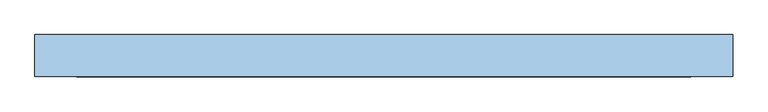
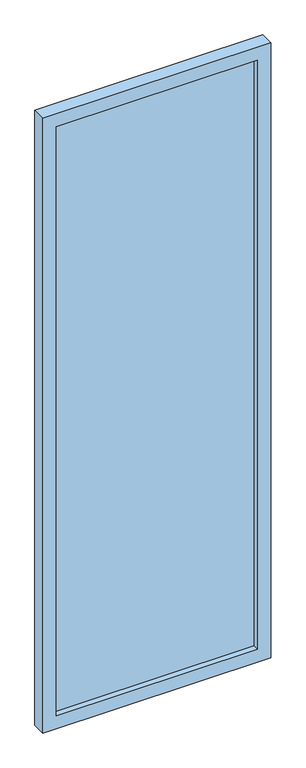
"""IFC4 building model written with IfcOpenShell, lengths in millimetres: window geometry, 固定窗-矩形- (1) : 樓梯_東面_固定窗_矩型_100 x 285cm."""

from ifc_helpers import new_model, si_unit, frame, origin, place, context, project, spatial, polyline, outline, extrude, source, transform, mapped, element, save


def window_85ef9ea3(model_context):
    return source(origin(), model_context, "Body", "SweptSolid", [
        extrude(outline(polyline([(2850.0, 500.0), (2850.0, -500.0), (0.0, -500.0), (0.0, 500.0), (2850.0, 500.0)]), holes=[polyline([(2790.0, 440.0), (60.0, 440.0), (60.0, -440.0), (2790.0, -440.0), (2790.0, 440.0)])]), frame((0.0, -60.0, 0.0), z_axis=(0.0, 1.0, 0.0), x_axis=(0.0, 0.0, 1.0)), (0.0, 0.0, 1.0), 60.0),
        extrude(outline(polyline([(-440.0, -25.0), (440.0, -25.0), (440.0, -35.0), (-440.0, -35.0), (-440.0, -25.0)])), frame((0.0, 0.0, 60.0), z_axis=(0.0, 0.0, 1.0), x_axis=(1.0, 0.0, 0.0)), (0.0, 0.0, 1.0), 2730.0),
    ])


if __name__ == "__main__":
    model = new_model("IFC4")
    model_context = context("Model", 3, world=origin())
    ifc_project = project(units=[si_unit("LENGTHUNIT", "METRE", prefix="MILLI")], contexts=[model_context])
    site = spatial("IfcSite", under=ifc_project)
    building = spatial("IfcBuilding", under=site)
    placement = place(None, origin())
    window_shape = window_85ef9ea3(model_context)
    element("IfcWindow", 1, ObjectType="固定窗-矩形- (1) : 樓梯_東面_固定窗_矩型_100 x 285cm", at=placement, inside=building, context=model_context, shape_type="MappedRepresentation", body=[
        mapped(window_shape, transform((0.0, 0.0, 0.0), x_axis=(1.0, 0.0, 0.0), y_axis=(0.0, 1.0, 0.0), z_axis=(0.0, 0.0, 1.0))),
    ])
    save(model, "model.ifc")
